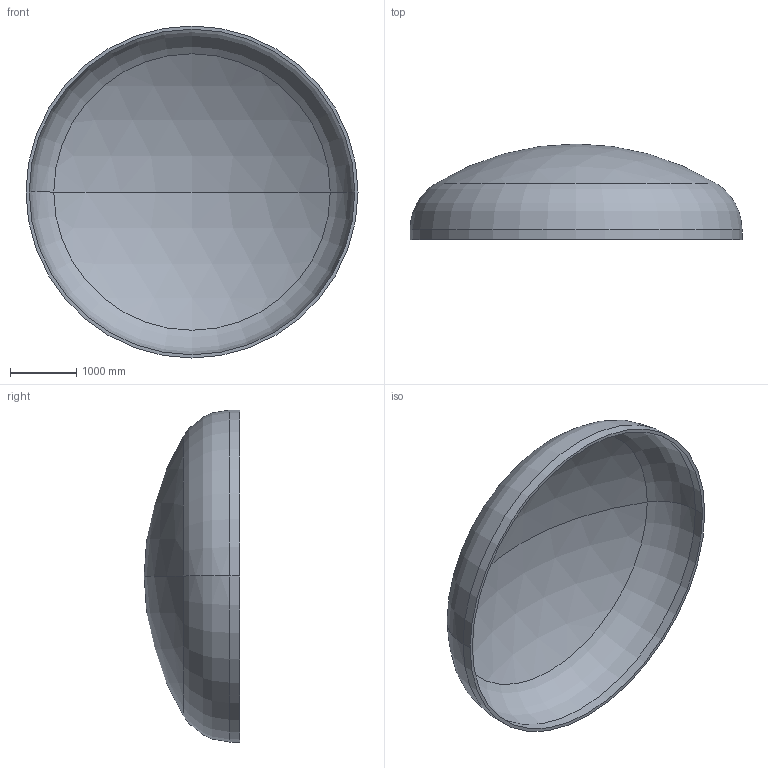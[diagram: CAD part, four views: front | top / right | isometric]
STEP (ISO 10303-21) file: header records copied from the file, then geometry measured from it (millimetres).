
FILE_DESCRIPTION (( 'STEP AP203' ), '1' );
FILE_NAME ('DIN 28013 Korbbogenform_-_Boden DIN 28013 - 5000 x 150 - I - s=49.step', '2016-07-02T00:34:45', ( '' ), ( '' ), 'SwSTEP 2.0', 'SolidWorks 2013', '' );
FILE_SCHEMA (( 'CONFIG_CONTROL_DESIGN' ));
Length unit declared in the file: millimetre
Products named in the file (1): DIN 28013 Korbbogenform_-_Boden DIN 28013 - 5000 x 150 - I - s=49
Bounding box: 5000 x 1440.9 x 5000 mm (x, y, z)
Volume: 1429676699.9 mm3; surface area: 59121305.3 mm2
Topology: 1 solids, 1 shells, 13 faces, 24 edges, 14 vertices
Faces by surface type: torus 4, cylinder 4, sphere 4, plane 1
Entity records: 407 total; most frequent: DIRECTION 72, CARTESIAN_POINT 52, ORIENTED_EDGE 48, AXIS2_PLACEMENT_3D 34, EDGE_CURVE 24, CIRCLE 20, EDGE_LOOP 14, VERTEX_POINT 14
